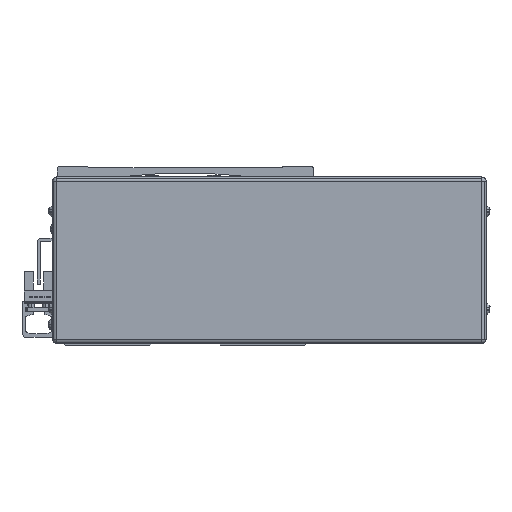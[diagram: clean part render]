
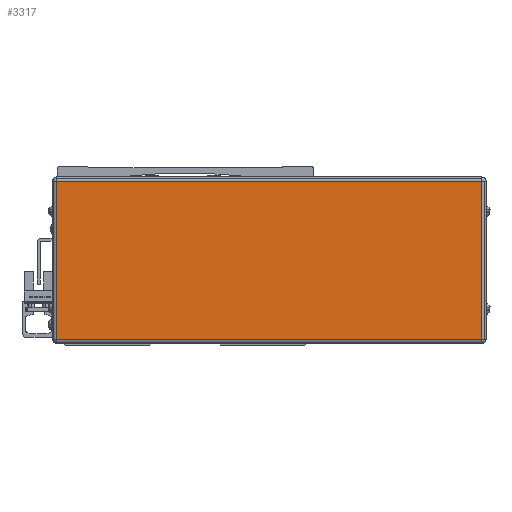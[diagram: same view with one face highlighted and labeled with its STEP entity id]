
A CAD part, front view. The second image highlights one B-rep face of the part: STEP entity #3317.
In plain terms, the highlighted planar face has unit normal (0, -1, 0).
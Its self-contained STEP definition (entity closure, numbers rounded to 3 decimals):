
#3317=ADVANCED_FACE('',(#8553),#8554,.T.);
#8553=FACE_OUTER_BOUND('',#16333,.T.);
#8554=PLANE('',#16334);
#16333=EDGE_LOOP('',(#26665,#26666,#26667,#26668));
#16334=AXIS2_PLACEMENT_3D('',#26669,#26670,#26671);
#26665=ORIENTED_EDGE('',*,*,#47555,.F.);
#26666=ORIENTED_EDGE('',*,*,#47556,.F.);
#26667=ORIENTED_EDGE('',*,*,#47251,.F.);
#26668=ORIENTED_EDGE('',*,*,#47557,.F.);
#26669=CARTESIAN_POINT('',(-259.5,-63.778,-8.));
#26670=DIRECTION('',(0.,-1.0,0.));
#26671=DIRECTION('',(1.0,0.,0.));
#47251=EDGE_CURVE('',#56848,#56850,#56851,.T.);
#47555=EDGE_CURVE('',#57384,#57385,#57386,.T.);
#47556=EDGE_CURVE('',#56850,#57384,#57387,.T.);
#47557=EDGE_CURVE('',#57385,#56848,#57388,.T.);
#56848=VERTEX_POINT('',#70553);
#56850=VERTEX_POINT('',#70555);
#56851=LINE('',#70556,#70557);
#57384=VERTEX_POINT('',#71303);
#57385=VERTEX_POINT('',#71304);
#57386=LINE('',#71305,#71306);
#57387=LINE('',#71307,#71308);
#57388=LINE('',#71309,#71310);
#70553=CARTESIAN_POINT('',(-361.7,-63.778,-46.));
#70555=CARTESIAN_POINT('',(-361.7,-63.778,30.));
#70556=CARTESIAN_POINT('',(-361.7,-63.778,-8.));
#70557=VECTOR('',#87084,10.0);
#71303=CARTESIAN_POINT('',(-157.3,-63.778,30.));
#71304=CARTESIAN_POINT('',(-157.3,-63.778,-46.));
#71305=CARTESIAN_POINT('',(-157.3,-63.778,-8.));
#71306=VECTOR('',#87485,10.0);
#71307=CARTESIAN_POINT('',(-259.5,-63.778,30.));
#71308=VECTOR('',#87486,10.0);
#71309=CARTESIAN_POINT('',(-259.5,-63.778,-46.));
#71310=VECTOR('',#87487,10.0);
#87084=DIRECTION('',(0.0,0.,1.0));
#87485=DIRECTION('',(0.0,0.,-1.0));
#87486=DIRECTION('',(1.0,0.,0.));
#87487=DIRECTION('',(-1.0,0.,0.));
